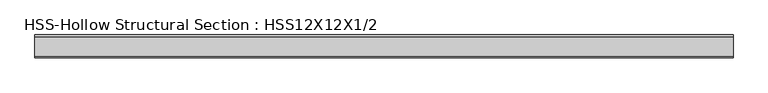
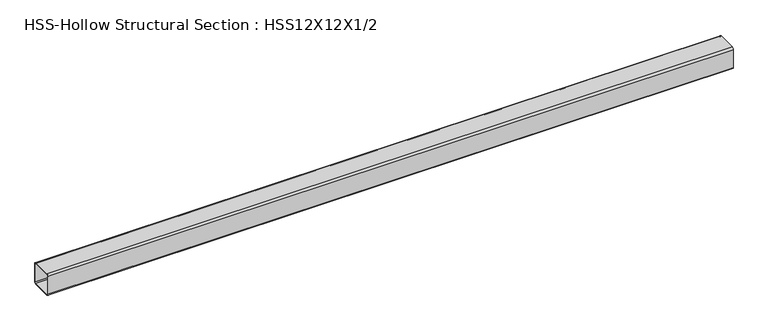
"""IFC4 building model written with IfcOpenShell, lengths in millimetres: beam geometry, HSS-Hollow Structural Section : HSS12X12X1/2."""

import ifcopenshell
import ifcopenshell.guid

model = None  # the IFC model being written
_history = None  # IfcOwnerHistory: only IFC2X3 demands one
_inside = {}  # id of a spatial element -> (the spatial element, [elements in it])
_under = {}  # id of a project, library or spatial element -> (it, [spatial elements below it])
_declared = {}  # id of a project -> (the project, [libraries it declares])
_typed = {}  # id of a type object -> (the type object, [elements of that type])
_made_of = {}  # id of a material, layer set ... -> (it, [elements and type objects made of it])


def new_model(schema):
    """Start an empty IFC model of exactly this schema.

    Asked for "IFC4X3", IfcOpenShell would pick the latest addendum, in which some entities
    have other attributes; the version numbers below select the first issue.
    IFC2X3 requires an IfcOwnerHistory on every rooted entity: one is made here for all.
    """
    global model, _history
    if schema == "IFC4X3":
        model = ifcopenshell.file(schema_version=(4, 3, 0, 0))
    else:
        model = ifcopenshell.file(schema=schema)
    _inside.clear()
    _under.clear()
    _declared.clear()
    _typed.clear()
    _made_of.clear()
    _history = None
    if model.schema == "IFC2X3":
        org = make("IfcOrganization", Name="unknown")
        user = make(
            "IfcPersonAndOrganization",
            ThePerson=make("IfcPerson", FamilyName="unknown"),
            TheOrganization=org,
        )
        app = make(
            "IfcApplication",
            ApplicationDeveloper=org,
            Version="unknown",
            ApplicationFullName="unknown",
            ApplicationIdentifier="unknown",
        )
        _history = make(
            "IfcOwnerHistory",
            OwningUser=user,
            OwningApplication=app,
            ChangeAction="ADDED",
            CreationDate=0,
        )
    return model


def make(cls, **values):
    """One entity of the class cls with the attributes given. An attribute that is None is left unset."""
    return model.create_entity(
        cls, **{name: value for name, value in values.items() if value is not None}
    )


def rooted(cls, **values):
    """An entity with a GlobalId (a new one), such as an element, a storey or a relation."""
    return make(cls, GlobalId=ifcopenshell.guid.new(), OwnerHistory=_history, **values)


def si_unit(unit_type, name, prefix=None):
    """IfcSIUnit, for example si_unit("LENGTHUNIT", "METRE", prefix="MILLI")."""
    return make("IfcSIUnit", UnitType=unit_type, Prefix=prefix, Name=name)


def assignment(units):
    """IfcUnitAssignment: the units of a project."""
    return None if units is None else make("IfcUnitAssignment", Units=units)


def point(xyz):
    """IfcCartesianPoint."""
    return None if xyz is None else make("IfcCartesianPoint", Coordinates=xyz)


def direction(xyz):
    """IfcDirection."""
    return None if xyz is None else make("IfcDirection", DirectionRatios=xyz)


def frame(location, z_axis=None, x_axis=None):
    """IfcAxis2Placement3D, a coordinate frame: its origin and axes. An axis left out is left unset."""
    return make(
        "IfcAxis2Placement3D",
        Location=point(location),
        Axis=direction(z_axis),
        RefDirection=direction(x_axis),
    )


def frame_2d(location, x_axis=None):
    """IfcAxis2Placement2D, a coordinate frame in the plane: its origin and x axis."""
    return make(
        "IfcAxis2Placement2D", Location=point(location), RefDirection=direction(x_axis)
    )


def origin():
    """The frame at (0, 0, 0) with its axes left unset."""
    return frame((0.0, 0.0, 0.0))


def place(relative_to, where):
    """IfcLocalPlacement: puts the frame where relative to a parent placement (None: the world)."""
    return make(
        "IfcLocalPlacement", PlacementRelTo=relative_to, RelativePlacement=where
    )


def context(
    kind, dimensions, precision=None, world=None, true_north=None, identifier=None
):
    """IfcGeometricRepresentationContext, for example the 3D "Model" context."""
    return make(
        "IfcGeometricRepresentationContext",
        ContextIdentifier=identifier,
        ContextType=kind,
        CoordinateSpaceDimension=dimensions,
        Precision=precision,
        WorldCoordinateSystem=world,
        TrueNorth=true_north,
    )


def project(units=None, contexts=None):
    """IfcProject with its units and contexts."""
    return rooted(
        "IfcProject",
        Name="project",
        RepresentationContexts=contexts,
        UnitsInContext=assignment(units),
    )


def spatial(cls, under=None, at=None, **own):
    """A site, building, storey or space (cls), placed at a placement, below another one or the project."""
    s = rooted(cls, ObjectPlacement=at, **own)
    if under is not None:
        _under.setdefault(under.id(), (under, []))[1].append(s)
    return s


def polyline(points):
    """IfcPolyline through the points."""
    return make("IfcPolyline", Points=[point(p) for p in points])


def circle_curve(where, radius):
    """IfcCircle in the frame where."""
    return make("IfcCircle", Position=where, Radius=radius)


def trimmed(basis, trim1, trim2, sense, master):
    """IfcTrimmedCurve: the piece of a basis curve between two trims."""
    return make(
        "IfcTrimmedCurve",
        BasisCurve=basis,
        Trim1=trim1,
        Trim2=trim2,
        SenseAgreement=sense,
        MasterRepresentation=master,
    )


def segment(curve, same_sense, transition):
    """IfcCompositeCurveSegment."""
    return make(
        "IfcCompositeCurveSegment",
        Transition=transition,
        SameSense=same_sense,
        ParentCurve=curve,
    )


def composite_curve(segments, self_intersect=None):
    """IfcCompositeCurve: segments joined end to end."""
    return make("IfcCompositeCurve", Segments=segments, SelfIntersect=self_intersect)


def outline(outer, holes=None, kind="AREA"):
    """IfcArbitraryClosedProfileDef: a profile drawn as a closed curve; with holes, ...WithVoids."""
    if holes is None:
        return make("IfcArbitraryClosedProfileDef", ProfileType=kind, OuterCurve=outer)
    return make(
        "IfcArbitraryProfileDefWithVoids",
        ProfileType=kind,
        OuterCurve=outer,
        InnerCurves=holes,
    )


def extrude(swept, where, along, depth):
    """IfcExtrudedAreaSolid: the profile swept, set in the frame where, extruded along a direction by depth."""
    return make(
        "IfcExtrudedAreaSolid",
        SweptArea=swept,
        Position=where,
        ExtrudedDirection=direction(along),
        Depth=depth,
    )


def shape(context_of_items, identifier, shape_type, items):
    """IfcShapeRepresentation: the items that make up one representation, for example the "Body"."""
    return make(
        "IfcShapeRepresentation",
        ContextOfItems=context_of_items,
        RepresentationIdentifier=identifier,
        RepresentationType=shape_type,
        Items=items,
    )


def source(mapping_origin, context_of_items, identifier, shape_type, items):
    """IfcRepresentationMap: a shape defined once, which mapped items show again and again."""
    return make(
        "IfcRepresentationMap",
        MappingOrigin=mapping_origin,
        MappedRepresentation=shape(context_of_items, identifier, shape_type, items),
    )


def transform(
    local_origin,
    x_axis=None,
    y_axis=None,
    z_axis=None,
    scale=None,
    scale2=None,
    scale3=None,
    uniform=True,
):
    """IfcCartesianTransformationOperator3D, or its non-uniform kind. x_axis, y_axis, z_axis: its Axis1, 2, 3."""
    if uniform:
        return make(
            "IfcCartesianTransformationOperator3D",
            Axis1=direction(x_axis),
            Axis2=direction(y_axis),
            LocalOrigin=point(local_origin),
            Scale=scale,
            Axis3=direction(z_axis),
        )
    return make(
        "IfcCartesianTransformationOperator3DnonUniform",
        Axis1=direction(x_axis),
        Axis2=direction(y_axis),
        LocalOrigin=point(local_origin),
        Scale=scale,
        Axis3=direction(z_axis),
        Scale2=scale2,
        Scale3=scale3,
    )


def mapped(mapping_source, mapping_target):
    """IfcMappedItem: shows the shape of a source again, moved by a transform."""
    return make(
        "IfcMappedItem", MappingSource=mapping_source, MappingTarget=mapping_target
    )


def made_of(thing, what):
    """Note that an element or type object is made of a material, layer set ...; save() writes the relation."""
    if what is not None:
        _made_of.setdefault(what.id(), (what, []))[1].append(thing)
    return thing


def element(
    cls,
    number,
    at=None,
    inside=None,
    cuts=None,
    type_object=None,
    material=None,
    context=None,
    identifier="Body",
    shape_type=None,
    held_by="IfcProductDefinitionShape",
    body=None,
    shapes=None,
    **own,
):
    """One element of the class cls, such as IfcWall. Its Tag is "e" and its number.

    at: its placement. inside: the storey or other place that contains it. cuts: it is an
    opening in that element (IfcRelVoidsElement). A single representation is given by context,
    identifier, shape_type and body (its items); several are given by shapes. held_by: the class
    of the entity that holds the representations. save() writes the other relations.
    """
    e = rooted(cls, Tag="e%d" % number, ObjectPlacement=at, **own)
    if body is not None:
        shapes = [shape(context, identifier, shape_type, body)]
    if shapes is not None:
        e.Representation = make(held_by, Representations=shapes)
    if inside is not None:
        _inside.setdefault(inside.id(), (inside, []))[1].append(e)
    if cuts is not None:
        rooted(
            "IfcRelVoidsElement", RelatingBuildingElement=cuts, RelatedOpeningElement=e
        )
    if type_object is not None:
        _typed.setdefault(type_object.id(), (type_object, []))[1].append(e)
    return made_of(e, material)


def aggregate(whole, parts):
    """IfcRelAggregates: a whole, such as a stair, and the parts it consists of."""
    return rooted("IfcRelAggregates", RelatingObject=whole, RelatedObjects=parts)


def save(model, path):
    """Write the relations noted so far, then the file.

    IfcRelAggregates (storeys below a building ...), IfcRelContainedInSpatialStructure (elements
    in a storey), IfcRelDefinesByType, IfcRelAssociatesMaterial and IfcRelDeclares: one each for
    every whole, place, type object, material and project.
    """
    for whole, parts in _under.values():
        aggregate(whole, parts)
    for where, things in _inside.values():
        rooted(
            "IfcRelContainedInSpatialStructure",
            RelatedElements=things,
            RelatingStructure=where,
        )
    for kind, things in _typed.values():
        rooted("IfcRelDefinesByType", RelatedObjects=things, RelatingType=kind)
    for what, things in _made_of.values():
        rooted("IfcRelAssociatesMaterial", RelatedObjects=things, RelatingMaterial=what)
    for by, libraries in _declared.values():
        rooted("IfcRelDeclares", RelatingContext=by, RelatedDefinitions=libraries)
    model.write(path)


def hss_hollow_structural_section_hss12x12x1_2_070f9e11(model_context):
    return source(origin(), model_context, "Body", "SweptSolid", [
        extrude(outline(composite_curve([segment(polyline([(152.4, 128.778), (152.4, -128.778)]), True, "CONTINUOUS"), segment(trimmed(circle_curve(frame_2d((128.778, -128.778)), 23.622), [point((152.4, -128.778))], [point((128.778, -152.4))], False, "CARTESIAN"), True, "CONTINUOUS"), segment(polyline([(128.778, -152.4), (-128.778, -152.4)]), True, "CONTINUOUS"), segment(trimmed(circle_curve(frame_2d((-128.778, -128.778)), 23.622), [point((-128.778, -152.4))], [point((-152.4, -128.778))], False, "CARTESIAN"), True, "CONTINUOUS"), segment(polyline([(-152.4, -128.778), (-152.4, 128.778)]), True, "CONTINUOUS"), segment(trimmed(circle_curve(frame_2d((-128.778, 128.778)), 23.622), [point((-152.4, 128.778))], [point((-128.778, 152.4))], False, "CARTESIAN"), True, "CONTINUOUS"), segment(polyline([(-128.778, 152.4), (128.778, 152.4)]), True, "CONTINUOUS"), segment(trimmed(circle_curve(frame_2d((128.778, 128.778)), 23.622), [point((128.778, 152.4))], [point((152.4, 128.778))], False, "CARTESIAN"), True, "CONTINUOUS")], self_intersect=False), holes=[composite_curve([segment(trimmed(circle_curve(frame_2d((-128.778, 128.778)), 11.811), [point((-128.778, 140.589))], [point((-140.589, 128.778))], True, "CARTESIAN"), True, "CONTINUOUS"), segment(polyline([(-140.589, 128.778), (-140.589, -128.778)]), True, "CONTINUOUS"), segment(trimmed(circle_curve(frame_2d((-128.778, -128.778)), 11.811), [point((-140.589, -128.778))], [point((-128.778, -140.589))], True, "CARTESIAN"), True, "CONTINUOUS"), segment(polyline([(-128.778, -140.589), (128.778, -140.589)]), True, "CONTINUOUS"), segment(trimmed(circle_curve(frame_2d((128.778, -128.778)), 11.811), [point((128.778, -140.589))], [point((140.589, -128.778))], True, "CARTESIAN"), True, "CONTINUOUS"), segment(polyline([(140.589, -128.778), (140.589, 128.778)]), True, "CONTINUOUS"), segment(trimmed(circle_curve(frame_2d((128.778, 128.778)), 11.811), [point((140.589, 128.778))], [point((128.778, 140.589))], True, "CARTESIAN"), True, "CONTINUOUS"), segment(polyline([(128.778, 140.589), (-128.778, 140.589)]), True, "CONTINUOUS")], self_intersect=False)]), frame((-4705.4245597, 0.0, 0.0), z_axis=(1.0, 0.0, 0.0), x_axis=(0.0, 1.0, 0.0)), (0.0, 0.0, 1.0), 9256.6663051),
    ])


if __name__ == "__main__":
    model = new_model("IFC4")
    model_context = context("Model", 3, world=origin())
    ifc_project = project(units=[si_unit("LENGTHUNIT", "METRE", prefix="MILLI")], contexts=[model_context])
    site = spatial("IfcSite", under=ifc_project)
    building = spatial("IfcBuilding", under=site)
    placement = place(None, origin())
    hss_hollow_structural_section_hss12x12x1_2_shape = hss_hollow_structural_section_hss12x12x1_2_070f9e11(model_context)
    element("IfcBeam", 1, ObjectType="HSS-Hollow Structural Section : HSS12X12X1/2", at=placement, inside=building, context=model_context, shape_type="MappedRepresentation", body=[
        mapped(hss_hollow_structural_section_hss12x12x1_2_shape, transform((0.0, 0.0, 0.0), x_axis=(1.0, 0.0, 0.0), y_axis=(0.0, 1.0, 0.0), z_axis=(0.0, 0.0, 1.0))),
    ])
    save(model, "model.ifc")
